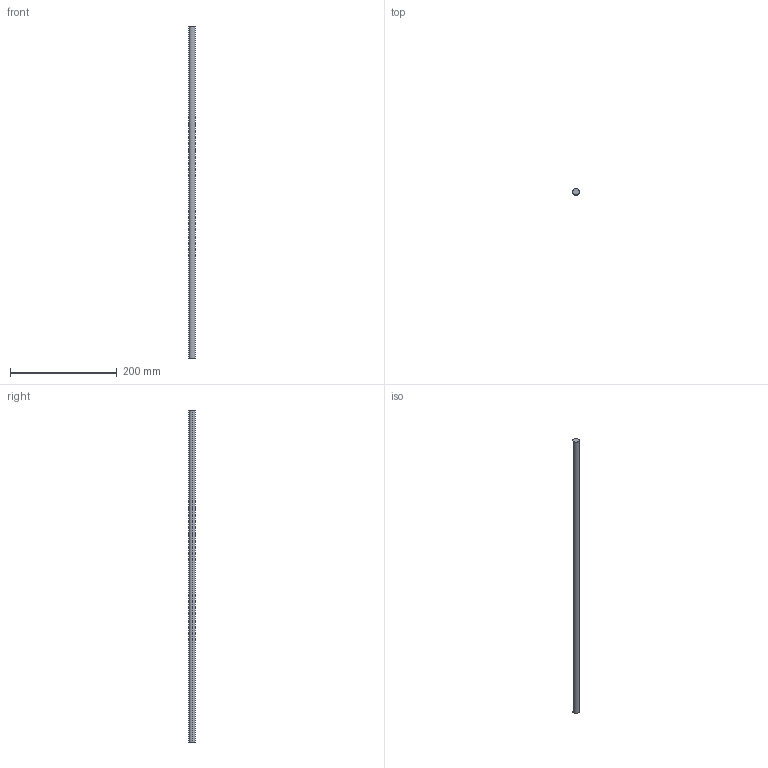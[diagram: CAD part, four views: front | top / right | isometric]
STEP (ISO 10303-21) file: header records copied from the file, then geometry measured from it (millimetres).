
FILE_DESCRIPTION (( 'STEP AP214' ), '1' );
FILE_NAME ('Magic Reling längs - 660.step', '2010-09-07T14:56:19', ( 'grass' ), ( '' ), 'SwSTEP 2.0', 'SolidWorks 2010', '' );
FILE_SCHEMA (( 'AUTOMOTIVE_DESIGN' ));
Length unit declared in the file: millimetre
Products named in the file (1): Magic Reling längs - 660
Bounding box: 12 x 12 x 622 mm (x, y, z)
Volume: 70346.5 mm3; surface area: 23675 mm2
Topology: 1 solids, 1 shells, 4 faces, 6 edges, 4 vertices
Faces by surface type: cylinder 2, plane 2
Entity records: 128 total; most frequent: DIRECTION 20, CARTESIAN_POINT 15, ORIENTED_EDGE 12, AXIS2_PLACEMENT_3D 9, EDGE_CURVE 6, ADVANCED_FACE 4, CIRCLE 4, FACE_OUTER_BOUND 4
